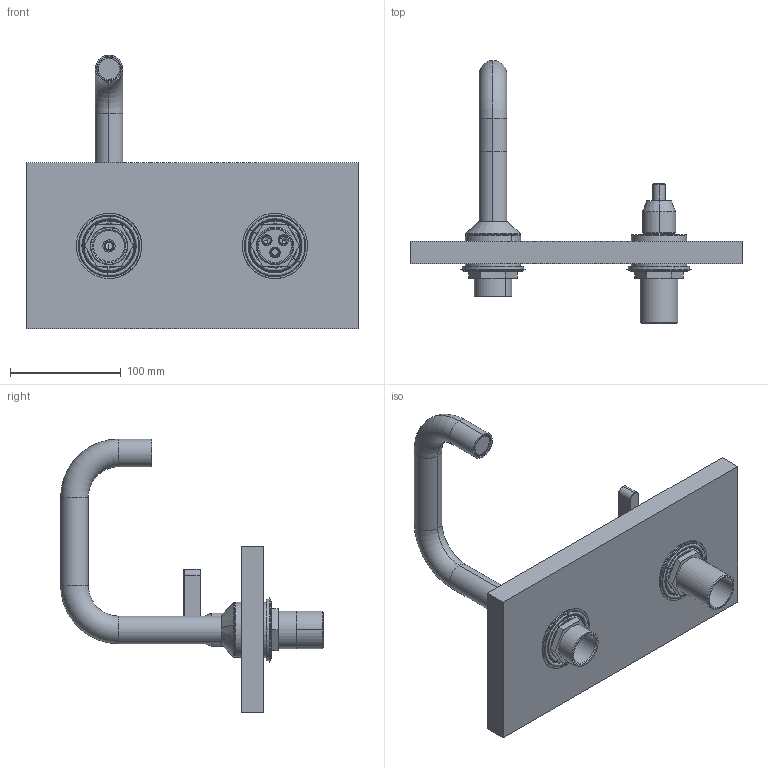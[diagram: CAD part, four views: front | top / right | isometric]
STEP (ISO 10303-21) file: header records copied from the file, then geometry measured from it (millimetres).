
FILE_DESCRIPTION (( 'STEP AP203' ), '1' );
FILE_NAME ('KOE7.STEP', '2019-06-07T13:19:46', ( '' ), ( '' ), 'SwSTEP 2.0', 'SolidWorks 2014', '' );
FILE_SCHEMA (( 'CONFIG_CONTROL_DESIGN' ));
Length unit declared in the file: millimetre
Products named in the file (31): EU2041_0; EU2033_0; CTK1; eu01_dado_esa_x_codolo; EU1904_0; OR2507262NBR; EU1590_0; EU0120_1; SPININOX  ﾘ 1,5x6; EU2047_0; EU1472_0; KOE25; eu01_rondella_gomma_spugna; TAPPHITO01; EU0119_2; CARTBAG016; TOP IN QUERCIA 2; AERA2151INC; OR992262ACS; EU1942_0; GRANCO M5x6 ACCIAIO; KOE7; EU2040_0; eu01_rondella_gomma; eu01_flangia_sagomata; AS779_00; FISSGECO001; VITETC6X8; OR1554262ACS; GRANCO M4x3 ACCIAIO; OR212ACS
Assembly tree (33 placements, depth 4):
  KOE7
    TOP IN QUERCIA 2
    CTK1
      EU2041_0
      OR212ACS
      EU2040_0
      EU1472_0
      OR992262ACS  x2
      GRANCO M4x3 ACCIAIO
      EU1942_0
      OR2507262NBR
      OR1554262ACS  x2
      AERA2151INC
      EU1590_0
    KOE25
      EU1904_0
      EU0119_2
      EU0120_1
      CARTBAG016
      GRANCO M5x6 ACCIAIO
      TAPPHITO01
      AS779_00
        EU2047_0
        EU2033_0
        VITETC6X8
        SPININOX  ﾘ 1,5x6
    FISSGECO001  x2
      eu01_flangia_sagomata
      eu01_rondella_gomma
      eu01_rondella_gomma_spugna
      eu01_dado_esa_x_codolo
Bounding box: 300 x 237.47 x 247.5 mm (x, y, z)
Volume: 1060075 mm3; surface area: 256297.8 mm2
Topology: 31 solids, 42 shells, 1386 faces, 3742 edges, 2438 vertices
Faces by surface type: cylinder 518, plane 456, cone 184, bspline 138, torus 90
Entity records: 51479 total; most frequent: CARTESIAN_POINT 16319, DIRECTION 6586, ORIENTED_EDGE 6544, EDGE_CURVE 3502, AXIS2_PLACEMENT_3D 2574, VERTEX_POINT 2298, VECTOR 1438, LINE 1438
